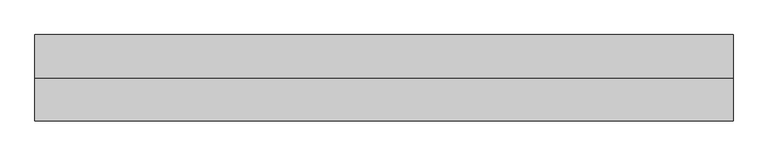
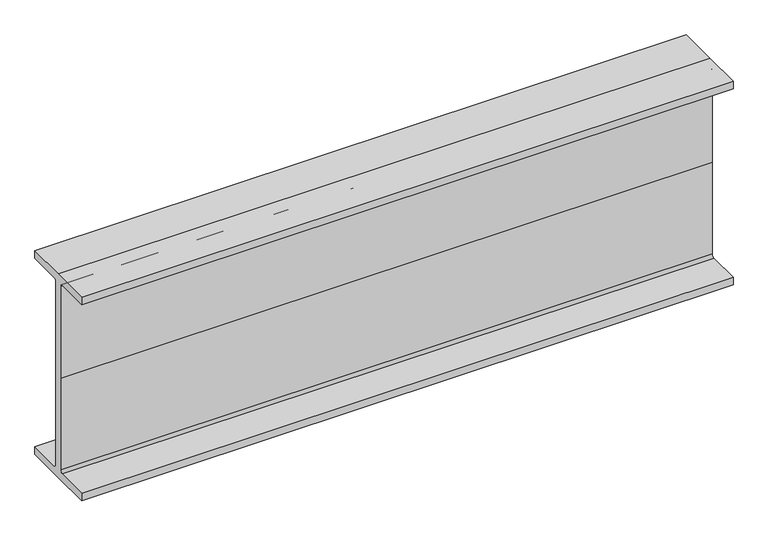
"""IFC4 building model written with IfcOpenShell, lengths in millimetres: beam geometry, 工字型钢梁 : 工字型钢梁."""

import ifcopenshell
import ifcopenshell.guid

model = None  # the IFC model being written
_history = None  # IfcOwnerHistory: only IFC2X3 demands one
_inside = {}  # id of a spatial element -> (the spatial element, [elements in it])
_under = {}  # id of a project, library or spatial element -> (it, [spatial elements below it])
_declared = {}  # id of a project -> (the project, [libraries it declares])
_typed = {}  # id of a type object -> (the type object, [elements of that type])
_made_of = {}  # id of a material, layer set ... -> (it, [elements and type objects made of it])


def new_model(schema):
    """Start an empty IFC model of exactly this schema.

    Asked for "IFC4X3", IfcOpenShell would pick the latest addendum, in which some entities
    have other attributes; the version numbers below select the first issue.
    IFC2X3 requires an IfcOwnerHistory on every rooted entity: one is made here for all.
    """
    global model, _history
    if schema == "IFC4X3":
        model = ifcopenshell.file(schema_version=(4, 3, 0, 0))
    else:
        model = ifcopenshell.file(schema=schema)
    _inside.clear()
    _under.clear()
    _declared.clear()
    _typed.clear()
    _made_of.clear()
    _history = None
    if model.schema == "IFC2X3":
        org = make("IfcOrganization", Name="unknown")
        user = make(
            "IfcPersonAndOrganization",
            ThePerson=make("IfcPerson", FamilyName="unknown"),
            TheOrganization=org,
        )
        app = make(
            "IfcApplication",
            ApplicationDeveloper=org,
            Version="unknown",
            ApplicationFullName="unknown",
            ApplicationIdentifier="unknown",
        )
        _history = make(
            "IfcOwnerHistory",
            OwningUser=user,
            OwningApplication=app,
            ChangeAction="ADDED",
            CreationDate=0,
        )
    return model


def make(cls, **values):
    """One entity of the class cls with the attributes given. An attribute that is None is left unset."""
    return model.create_entity(
        cls, **{name: value for name, value in values.items() if value is not None}
    )


def rooted(cls, **values):
    """An entity with a GlobalId (a new one), such as an element, a storey or a relation."""
    return make(cls, GlobalId=ifcopenshell.guid.new(), OwnerHistory=_history, **values)


def si_unit(unit_type, name, prefix=None):
    """IfcSIUnit, for example si_unit("LENGTHUNIT", "METRE", prefix="MILLI")."""
    return make("IfcSIUnit", UnitType=unit_type, Prefix=prefix, Name=name)


def assignment(units):
    """IfcUnitAssignment: the units of a project."""
    return None if units is None else make("IfcUnitAssignment", Units=units)


def point(xyz):
    """IfcCartesianPoint."""
    return None if xyz is None else make("IfcCartesianPoint", Coordinates=xyz)


def direction(xyz):
    """IfcDirection."""
    return None if xyz is None else make("IfcDirection", DirectionRatios=xyz)


def frame(location, z_axis=None, x_axis=None):
    """IfcAxis2Placement3D, a coordinate frame: its origin and axes. An axis left out is left unset."""
    return make(
        "IfcAxis2Placement3D",
        Location=point(location),
        Axis=direction(z_axis),
        RefDirection=direction(x_axis),
    )


def frame_2d(location, x_axis=None):
    """IfcAxis2Placement2D, a coordinate frame in the plane: its origin and x axis."""
    return make(
        "IfcAxis2Placement2D", Location=point(location), RefDirection=direction(x_axis)
    )


def origin():
    """The frame at (0, 0, 0) with its axes left unset."""
    return frame((0.0, 0.0, 0.0))


def place(relative_to, where):
    """IfcLocalPlacement: puts the frame where relative to a parent placement (None: the world)."""
    return make(
        "IfcLocalPlacement", PlacementRelTo=relative_to, RelativePlacement=where
    )


def context(
    kind, dimensions, precision=None, world=None, true_north=None, identifier=None
):
    """IfcGeometricRepresentationContext, for example the 3D "Model" context."""
    return make(
        "IfcGeometricRepresentationContext",
        ContextIdentifier=identifier,
        ContextType=kind,
        CoordinateSpaceDimension=dimensions,
        Precision=precision,
        WorldCoordinateSystem=world,
        TrueNorth=true_north,
    )


def project(units=None, contexts=None):
    """IfcProject with its units and contexts."""
    return rooted(
        "IfcProject",
        Name="project",
        RepresentationContexts=contexts,
        UnitsInContext=assignment(units),
    )


def spatial(cls, under=None, at=None, **own):
    """A site, building, storey or space (cls), placed at a placement, below another one or the project."""
    s = rooted(cls, ObjectPlacement=at, **own)
    if under is not None:
        _under.setdefault(under.id(), (under, []))[1].append(s)
    return s


def polyline(points):
    """IfcPolyline through the points."""
    return make("IfcPolyline", Points=[point(p) for p in points])


def circle_curve(where, radius):
    """IfcCircle in the frame where."""
    return make("IfcCircle", Position=where, Radius=radius)


def trimmed(basis, trim1, trim2, sense, master):
    """IfcTrimmedCurve: the piece of a basis curve between two trims."""
    return make(
        "IfcTrimmedCurve",
        BasisCurve=basis,
        Trim1=trim1,
        Trim2=trim2,
        SenseAgreement=sense,
        MasterRepresentation=master,
    )


def segment(curve, same_sense, transition):
    """IfcCompositeCurveSegment."""
    return make(
        "IfcCompositeCurveSegment",
        Transition=transition,
        SameSense=same_sense,
        ParentCurve=curve,
    )


def composite_curve(segments, self_intersect=None):
    """IfcCompositeCurve: segments joined end to end."""
    return make("IfcCompositeCurve", Segments=segments, SelfIntersect=self_intersect)


def outline(outer, holes=None, kind="AREA"):
    """IfcArbitraryClosedProfileDef: a profile drawn as a closed curve; with holes, ...WithVoids."""
    if holes is None:
        return make("IfcArbitraryClosedProfileDef", ProfileType=kind, OuterCurve=outer)
    return make(
        "IfcArbitraryProfileDefWithVoids",
        ProfileType=kind,
        OuterCurve=outer,
        InnerCurves=holes,
    )


def extrude(swept, where, along, depth):
    """IfcExtrudedAreaSolid: the profile swept, set in the frame where, extruded along a direction by depth."""
    return make(
        "IfcExtrudedAreaSolid",
        SweptArea=swept,
        Position=where,
        ExtrudedDirection=direction(along),
        Depth=depth,
    )


def shape(context_of_items, identifier, shape_type, items):
    """IfcShapeRepresentation: the items that make up one representation, for example the "Body"."""
    return make(
        "IfcShapeRepresentation",
        ContextOfItems=context_of_items,
        RepresentationIdentifier=identifier,
        RepresentationType=shape_type,
        Items=items,
    )


def source(mapping_origin, context_of_items, identifier, shape_type, items):
    """IfcRepresentationMap: a shape defined once, which mapped items show again and again."""
    return make(
        "IfcRepresentationMap",
        MappingOrigin=mapping_origin,
        MappedRepresentation=shape(context_of_items, identifier, shape_type, items),
    )


def transform(
    local_origin,
    x_axis=None,
    y_axis=None,
    z_axis=None,
    scale=None,
    scale2=None,
    scale3=None,
    uniform=True,
):
    """IfcCartesianTransformationOperator3D, or its non-uniform kind. x_axis, y_axis, z_axis: its Axis1, 2, 3."""
    if uniform:
        return make(
            "IfcCartesianTransformationOperator3D",
            Axis1=direction(x_axis),
            Axis2=direction(y_axis),
            LocalOrigin=point(local_origin),
            Scale=scale,
            Axis3=direction(z_axis),
        )
    return make(
        "IfcCartesianTransformationOperator3DnonUniform",
        Axis1=direction(x_axis),
        Axis2=direction(y_axis),
        LocalOrigin=point(local_origin),
        Scale=scale,
        Axis3=direction(z_axis),
        Scale2=scale2,
        Scale3=scale3,
    )


def mapped(mapping_source, mapping_target):
    """IfcMappedItem: shows the shape of a source again, moved by a transform."""
    return make(
        "IfcMappedItem", MappingSource=mapping_source, MappingTarget=mapping_target
    )


def made_of(thing, what):
    """Note that an element or type object is made of a material, layer set ...; save() writes the relation."""
    if what is not None:
        _made_of.setdefault(what.id(), (what, []))[1].append(thing)
    return thing


def element(
    cls,
    number,
    at=None,
    inside=None,
    cuts=None,
    type_object=None,
    material=None,
    context=None,
    identifier="Body",
    shape_type=None,
    held_by="IfcProductDefinitionShape",
    body=None,
    shapes=None,
    **own,
):
    """One element of the class cls, such as IfcWall. Its Tag is "e" and its number.

    at: its placement. inside: the storey or other place that contains it. cuts: it is an
    opening in that element (IfcRelVoidsElement). A single representation is given by context,
    identifier, shape_type and body (its items); several are given by shapes. held_by: the class
    of the entity that holds the representations. save() writes the other relations.
    """
    e = rooted(cls, Tag="e%d" % number, ObjectPlacement=at, **own)
    if body is not None:
        shapes = [shape(context, identifier, shape_type, body)]
    if shapes is not None:
        e.Representation = make(held_by, Representations=shapes)
    if inside is not None:
        _inside.setdefault(inside.id(), (inside, []))[1].append(e)
    if cuts is not None:
        rooted(
            "IfcRelVoidsElement", RelatingBuildingElement=cuts, RelatedOpeningElement=e
        )
    if type_object is not None:
        _typed.setdefault(type_object.id(), (type_object, []))[1].append(e)
    return made_of(e, material)


def aggregate(whole, parts):
    """IfcRelAggregates: a whole, such as a stair, and the parts it consists of."""
    return rooted("IfcRelAggregates", RelatingObject=whole, RelatedObjects=parts)


def save(model, path):
    """Write the relations noted so far, then the file.

    IfcRelAggregates (storeys below a building ...), IfcRelContainedInSpatialStructure (elements
    in a storey), IfcRelDefinesByType, IfcRelAssociatesMaterial and IfcRelDeclares: one each for
    every whole, place, type object, material and project.
    """
    for whole, parts in _under.values():
        aggregate(whole, parts)
    for where, things in _inside.values():
        rooted(
            "IfcRelContainedInSpatialStructure",
            RelatedElements=things,
            RelatingStructure=where,
        )
    for kind, things in _typed.values():
        rooted("IfcRelDefinesByType", RelatedObjects=things, RelatingType=kind)
    for what, things in _made_of.values():
        rooted("IfcRelAssociatesMaterial", RelatedObjects=things, RelatingMaterial=what)
    for by, libraries in _declared.values():
        rooted("IfcRelDeclares", RelatingContext=by, RelatedDefinitions=libraries)
    model.write(path)


def beam_60eefc38(model_context):
    return source(origin(), model_context, "Body", "SweptSolid", [
        extrude(outline(composite_curve([segment(polyline([(150.0, 400.0), (150.0, 370.0), (25.0, 370.0)]), True, "CONTINUOUS"), segment(trimmed(circle_curve(frame_2d((25.0, 360.0)), 10.0), [point((25.0, 370.0))], [point((15.0, 360.0))], True, "CARTESIAN"), True, "CONTINUOUS"), segment(polyline([(15.0, 360.0), (15.0, 0.0), (15.0, -360.0)]), True, "CONTINUOUS"), segment(trimmed(circle_curve(frame_2d((25.0, -360.0)), 10.0), [point((15.0, -360.0))], [point((25.0, -370.0))], True, "CARTESIAN"), True, "CONTINUOUS"), segment(polyline([(25.0, -370.0), (150.0, -370.0), (150.0, -400.0), (0.0, -400.0), (-150.0, -400.0), (-150.0, -370.0), (-25.0, -370.0)]), True, "CONTINUOUS"), segment(trimmed(circle_curve(frame_2d((-25.0, -360.0)), 10.0), [point((-25.0, -370.0))], [point((-15.0, -360.0))], True, "CARTESIAN"), True, "CONTINUOUS"), segment(polyline([(-15.0, -360.0), (-15.0, 0.0), (-15.0, 360.0)]), True, "CONTINUOUS"), segment(trimmed(circle_curve(frame_2d((-25.0, 360.0)), 10.0), [point((-15.0, 360.0))], [point((-25.0, 370.0))], True, "CARTESIAN"), True, "CONTINUOUS"), segment(polyline([(-25.0, 370.0), (-150.0, 370.0), (-150.0, 400.0), (0.0, 400.0), (150.0, 400.0)]), True, "CONTINUOUS")], self_intersect=False)), frame((-1210.0, 0.0, 0.0), z_axis=(1.0, 0.0, 0.0), x_axis=(0.0, 1.0, 0.0)), (0.0, 0.0, 1.0), 2420.0),
    ])


if __name__ == "__main__":
    model = new_model("IFC4")
    model_context = context("Model", 3, world=origin())
    ifc_project = project(units=[si_unit("LENGTHUNIT", "METRE", prefix="MILLI")], contexts=[model_context])
    site = spatial("IfcSite", under=ifc_project)
    building = spatial("IfcBuilding", under=site)
    placement = place(None, origin())
    beam_shape = beam_60eefc38(model_context)
    element("IfcBeam", 1, ObjectType="工字型钢梁 : 工字型钢梁", at=placement, inside=building, context=model_context, shape_type="MappedRepresentation", body=[
        mapped(beam_shape, transform((0.0, 0.0, 0.0), x_axis=(1.0, 0.0, 0.0), y_axis=(0.0, 1.0, 0.0), z_axis=(0.0, 0.0, 1.0))),
    ])
    save(model, "model.ifc")
